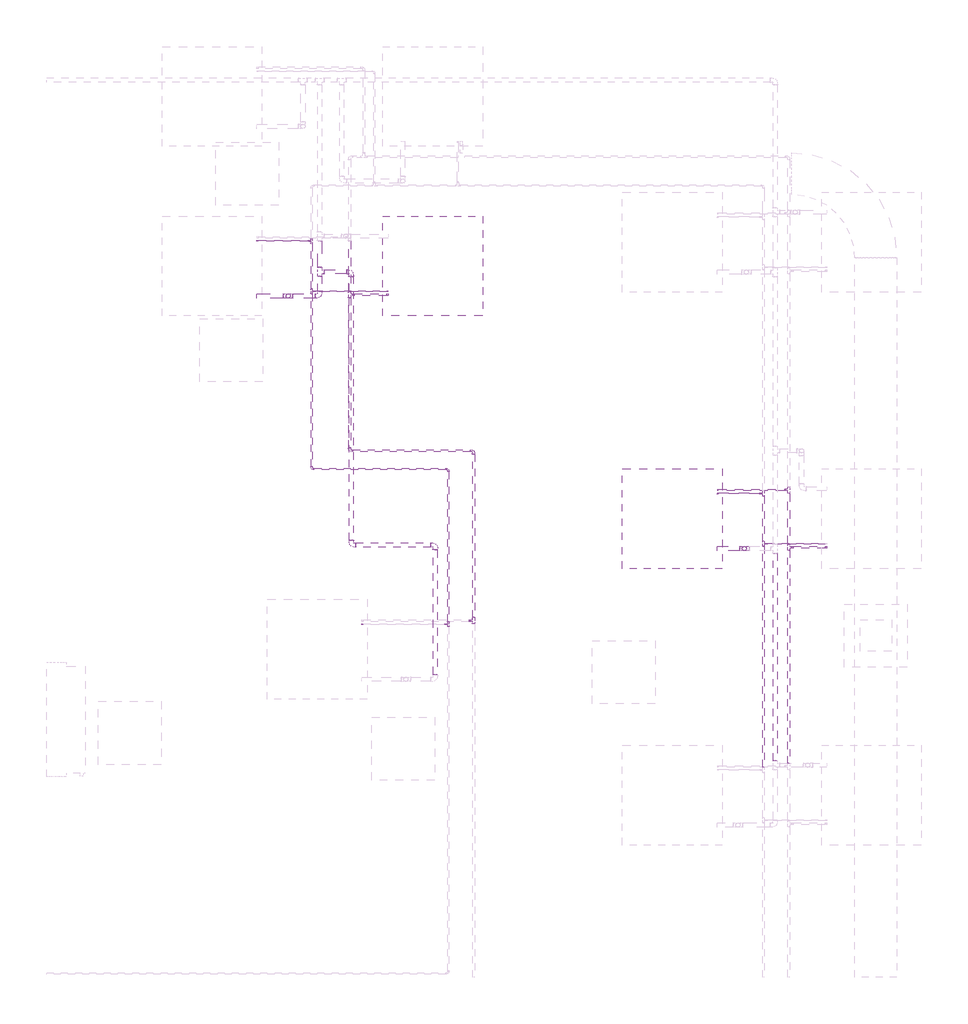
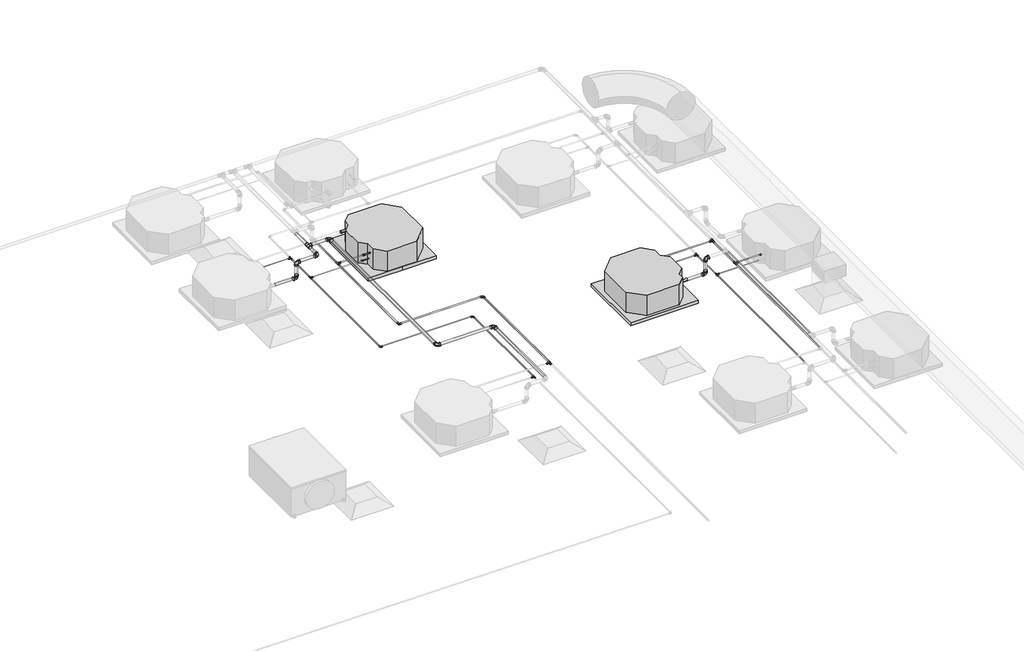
# One storey, part 20 of 22: 38 pipe fittings, 31 pipe segments, 2 proxies.
"""IFC4 building model written with IfcOpenShell, lengths in millimetres."""

from ifc_helpers import new_model, si_unit, point, frame, frame_2d, origin, place, context, project, spatial, circle_curve, trimmed, segment, composite_curve, outline, extrude, transform, mapped, element, save
from components import mechanical_equipment_53173f38, pipe_fitting_144f4440, pipe_fitting_14eb6376, pipe_fitting_103655aa, pipe_fitting_9aea3abe, pipe_fitting_0e110a5f, pipe_fitting_afe73776, pipe_fitting_09966660, pipe_fitting_501e5992, pipe_fitting_58ab9b66, pipe_fitting_da16c1b3, pipe_fitting_5a6d96d3, pipe_fitting_3e80353c

model = new_model("IFC4")

# Units and contexts
model_context = context("Model", 3, world=origin())
ifc_project = project(units=[si_unit("LENGTHUNIT", "METRE", prefix="MILLI")], contexts=[model_context])

# Site, building, storey
site = spatial("IfcSite", under=ifc_project)
building = spatial("IfcBuilding", under=site)
storey = spatial("IfcBuildingStorey", under=building, Name="Nível 2", Elevation=3880.0)

# Proxies
placement = place(None, origin())
mechanical_equipment_shape = mechanical_equipment_53173f38(model_context)
element("IfcBuildingElementProxy", 1, Name="Midea_VRF_Indoor_4-way Cassette_MI-90(100,112,140)Q4_DHN1-D (2nd DC) : MI2-140Q4DHN1", ObjectType="Midea_VRF_Indoor_4-way Cassette_MI-90(100,112,140)Q4_DHN1-D (2nd DC) : MI2-140Q4DHN1", at=placement, inside=storey, context=model_context, shape_type="MappedRepresentation", body=[
    mapped(mechanical_equipment_shape, transform((28178.6922103, 5335.03247, 6880.0), x_axis=(1.0, 0.0, 0.0), y_axis=(0.0, 1.0, 0.0), z_axis=(0.0, 0.0, 1.0))),
])
element("IfcBuildingElementProxy", 2, Name="Midea_VRF_Indoor_4-way Cassette_MI-90(100,112,140)Q4_DHN1-D (2nd DC) : MI2-140Q4DHN1", ObjectType="Midea_VRF_Indoor_4-way Cassette_MI-90(100,112,140)Q4_DHN1-D (2nd DC) : MI2-140Q4DHN1", at=placement, inside=storey, context=model_context, shape_type="MappedRepresentation", body=[
    mapped(mechanical_equipment_shape, transform((25897.5040419, 7738.4946683, 6880.0), x_axis=(-1.0, 0.0, 0.0), y_axis=(0.0, -1.0, 0.0), z_axis=(0.0, 0.0, 1.0))),
])

# Pipe fittings
pipe_fitting_shape = pipe_fitting_144f4440(model_context)
element("IfcPipeFitting", 3, ObjectType="Cotovelo - PVC - CW : Padrão", at=placement, inside=storey, context=model_context, shape_type="MappedRepresentation", body=[
    mapped(pipe_fitting_shape, transform((28863.6922102, 5050.03247, 7360.6313654), x_axis=(0.0, 0.0, 1.0), y_axis=(1.0, 0.0, 0.0), z_axis=(0.0, 1.0, 0.0))),
])
element("IfcPipeFitting", 4, ObjectType="Cotovelo - PVC - CW : Padrão", at=placement, inside=storey, context=model_context, shape_type="MappedRepresentation", body=[
    mapped(pipe_fitting_shape, transform((24522.5040418, 7453.4946683, 7360.6313654), x_axis=(0.0, 0.0, 1.0), y_axis=(1.0, 0.0, 0.0), z_axis=(0.0, 1.0, 0.0))),
])
element("IfcPipeFitting", 5, ObjectType="Cotovelo - PVC - CW : Padrão", at=placement, inside=storey, context=model_context, shape_type="MappedRepresentation", body=[
    mapped(pipe_fitting_shape, transform((24822.5040418, 7453.4946683, 7360.6313654), x_axis=(1.0, 0.0, 0.0), y_axis=(0.0, 1.0, 0.0), z_axis=(0.0, 0.0, 1.0))),
])
element("IfcPipeFitting", 6, ObjectType="Cotovelo - PVC - CW : Padrão", at=placement, inside=storey, context=model_context, shape_type="MappedRepresentation", body=[
    mapped(pipe_fitting_shape, transform((25122.5040418, 7683.6725833, 7360.6313654), x_axis=(0.0, 1.0, 0.0), y_axis=(-1.0, 0.0, 0.0), z_axis=(0.0, 0.0, 1.0))),
])
element("IfcPipeFitting", 7, ObjectType="Cotovelo - PVC - CW : Padrão", at=placement, inside=storey, context=model_context, shape_type="MappedRepresentation", body=[
    mapped(pipe_fitting_shape, transform((25122.5040418, 5083.6725833, 7360.6313654), x_axis=(0.0, -1.0, 0.0), y_axis=(1.0, 0.0, 0.0), z_axis=(0.0, 0.0, 1.0))),
])
element("IfcPipeFitting", 8, ObjectType="Cotovelo - PVC - CW : Padrão", at=placement, inside=storey, context=model_context, shape_type="MappedRepresentation", body=[
    mapped(pipe_fitting_shape, transform((25922.5040418, 5083.6725833, 7360.6313654), x_axis=(0.0, 1.0, 0.0), y_axis=(-1.0, 0.0, 0.0), z_axis=(0.0, 0.0, 1.0))),
])
pipe_fitting_2_shape = pipe_fitting_14eb6376(model_context)
element("IfcPipeFitting", 9, ObjectType="Tê de redução - PVC - CW : Padrão", at=placement, inside=storey, context=model_context, shape_type="MappedRepresentation", body=[
    mapped(pipe_fitting_2_shape, transform((24822.5040418, 7683.6725833, 7360.6313654), x_axis=(0.0, 1.0, 0.0), y_axis=(-1.0, 0.0, 0.0), z_axis=(0.0, 0.0, 1.0))),
])
pipe_fitting_3_shape = pipe_fitting_103655aa(model_context)
element("IfcPipeFitting", 10, ObjectType="Cotovelo - PVC - CW : Padrão", at=placement, inside=storey, context=model_context, shape_type="MappedRepresentation", body=[
    mapped(pipe_fitting_3_shape, transform((24522.5040418, 7453.4946683, 7132.3), x_axis=(0.9999999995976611, 0.0, -2.83668442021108e-05), y_axis=(2.83668442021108e-05, 0.0, 0.9999999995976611), z_axis=(0.0, -1.0, 0.0))),
])
pipe_fitting_4_shape = pipe_fitting_9aea3abe(model_context)
element("IfcPipeFitting", 11, ObjectType="Cotovelo - PVC - CW : Padrão", at=placement, inside=storey, context=model_context, shape_type="MappedRepresentation", body=[
    mapped(pipe_fitting_4_shape, transform((28863.6922102, 5050.03247, 7132.3), x_axis=(0.9999999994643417, 0.0, -3.2730974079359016e-05), y_axis=(3.2730974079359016e-05, 0.0, 0.9999999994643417), z_axis=(0.0, -1.0, 0.0))),
])
pipe_fitting_5_shape = pipe_fitting_0e110a5f(model_context)
element("IfcPipeFitting", 12, ObjectType="Cotovelo - Soldado - CU : Padrão", at=placement, inside=storey, context=model_context, shape_type="MappedRepresentation", body=[
    mapped(pipe_fitting_5_shape, transform((25106.1108591, 5979.9222462, 7132.3), x_axis=(0.0, -1.0, 0.0), y_axis=(1.0, 0.0, 0.0), z_axis=(0.0, 0.0, 1.0))),
])
element("IfcPipeFitting", 13, ObjectType="Cotovelo - Soldado - CU : Padrão", at=placement, inside=storey, context=model_context, shape_type="MappedRepresentation", body=[
    mapped(pipe_fitting_5_shape, transform((26286.1108591, 5979.9222462, 7132.3), x_axis=(0.0, 1.0, 0.0), y_axis=(-1.0, 0.0, 0.0), z_axis=(0.0, 0.0, 1.0))),
])
pipe_fitting_6_shape = pipe_fitting_afe73776(model_context)
element("IfcPipeFitting", 14, ObjectType="Bucha de redução reta - Soldada - CU : Padrão", at=placement, inside=storey, context=model_context, shape_type="MappedRepresentation", body=[
    mapped(pipe_fitting_6_shape, transform((26255.9503592, 4363.6538733, 7132.300242), x_axis=(-0.9999999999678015, 0.0, 8.024771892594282e-06), y_axis=(0.0, -1.0, 0.0), z_axis=(8.024771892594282e-06, 0.0, 0.9999999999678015))),
])
element("IfcPipeFitting", 15, ObjectType="Bucha de redução reta - Soldada - CU : Padrão", at=placement, inside=storey, context=model_context, shape_type="MappedRepresentation", body=[
    mapped(pipe_fitting_6_shape, transform((25136.2713591, 7465.2838546, 7132.3005418), x_axis=(0.9999999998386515, 0.0, 1.796376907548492e-05), y_axis=(0.0, 1.0, 0.0), z_axis=(-1.796376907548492e-05, 0.0, 0.9999999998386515))),
])
element("IfcPipeFitting", 16, ObjectType="Bucha de redução reta - Soldada - CU : Padrão", at=placement, inside=storey, context=model_context, shape_type="MappedRepresentation", body=[
    mapped(pipe_fitting_6_shape, transform((29316.2713591, 5061.8216563, 7132.3007154), x_axis=(0.9999999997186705, 0.0, 2.3720434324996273e-05), y_axis=(0.0, 1.0, 0.0), z_axis=(-2.3720434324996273e-05, 0.0, 0.9999999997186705))),
])
element("IfcPipeFitting", 17, ObjectType="Bucha de redução reta - Soldada - CU : Padrão", at=placement, inside=storey, context=model_context, shape_type="MappedRepresentation", body=[
    mapped(pipe_fitting_6_shape, transform((29255.9503592, 5608.2432836, 7132.3003778), x_axis=(-0.9999999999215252, 0.0, 1.2527961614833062e-05), y_axis=(0.0, -1.0000000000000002, 0.0), z_axis=(1.2527961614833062e-05, 0.0, 0.9999999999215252))),
])
pipe_fitting_7_shape = pipe_fitting_09966660(model_context)
element("IfcPipeFitting", 18, ObjectType="Tê - Soldado - CU : Padrão", at=placement, inside=storey, context=model_context, shape_type="MappedRepresentation", body=[
    mapped(pipe_fitting_7_shape, transform((26286.1108591, 4363.6538733, 7132.3), x_axis=(0.0, 1.0, 0.0), y_axis=(0.9999999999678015, 0.0, -8.024771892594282e-06), z_axis=(-8.024771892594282e-06, 0.0, -0.9999999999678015))),
])
element("IfcPipeFitting", 19, ObjectType="Tê - Soldado - CU : Padrão", at=placement, inside=storey, context=model_context, shape_type="MappedRepresentation", body=[
    mapped(pipe_fitting_7_shape, transform((25106.1108591, 7465.2838546, 7132.3), x_axis=(0.0, 1.0, 0.0), y_axis=(-0.9999999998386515, 0.0, -1.796376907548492e-05), z_axis=(-1.796376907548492e-05, 0.0, 0.9999999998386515))),
])
element("IfcPipeFitting", 20, ObjectType="Tê - Soldado - CU : Padrão", at=placement, inside=storey, context=model_context, shape_type="MappedRepresentation", body=[
    mapped(pipe_fitting_7_shape, transform((29286.1108591, 5061.8216563, 7132.3), x_axis=(0.0, -1.0, 0.0), y_axis=(-0.9999999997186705, 0.0, -2.3720434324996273e-05), z_axis=(2.3720434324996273e-05, 0.0, -0.9999999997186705))),
])
element("IfcPipeFitting", 21, ObjectType="Tê - Soldado - CU : Padrão", at=placement, inside=storey, context=model_context, shape_type="MappedRepresentation", body=[
    mapped(pipe_fitting_7_shape, transform((29286.1108591, 5608.2432836, 7132.3), x_axis=(0.0, -1.0, 0.0), y_axis=(0.9999999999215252, 0.0, -1.2527961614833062e-05), z_axis=(1.2527961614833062e-05, 0.0, 0.9999999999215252))),
])
pipe_fitting_8_shape = pipe_fitting_501e5992(model_context)
element("IfcPipeFitting", 22, ObjectType="Bucha de redução reta - Soldada - CU : Padrão", at=placement, inside=storey, context=model_context, shape_type="MappedRepresentation", body=[
    mapped(pipe_fitting_8_shape, transform((25459.8451419, 7465.2838546, 7132.3082827), x_axis=(0.9999999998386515, 0.0, 1.7963769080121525e-05), y_axis=(0.0, 1.0, 0.0), z_axis=(-1.7963769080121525e-05, 0.0, 0.9999999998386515))),
])
element("IfcPipeFitting", 23, ObjectType="Bucha de redução reta - Soldada - CU : Padrão", at=placement, inside=storey, context=model_context, shape_type="MappedRepresentation", body=[
    mapped(pipe_fitting_8_shape, transform((29635.3505066, 5061.8216563, 7132.3082004), x_axis=(0.9999999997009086, 0.0, 2.445777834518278e-05), y_axis=(0.0, 1.0, 0.0), z_axis=(-2.445777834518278e-05, 0.0, 0.9999999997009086))),
])
element("IfcPipeFitting", 24, ObjectType="Bucha de redução reta - Soldada - CU : Padrão", at=placement, inside=storey, context=model_context, shape_type="MappedRepresentation", body=[
    mapped(pipe_fitting_8_shape, transform((28616.3511103, 5608.2432836, 7132.3083491), x_axis=(-0.9999999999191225, 0.0, 1.2718296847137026e-05), y_axis=(0.0, -1.0, 0.0), z_axis=(1.2718296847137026e-05, 0.0, 0.9999999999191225))),
])
pipe_fitting_9_shape = pipe_fitting_58ab9b66(model_context)
element("IfcPipeFitting", 25, ObjectType="Bucha de redução reta - Soldada - CU : Padrão", at=placement, inside=storey, context=model_context, shape_type="MappedRepresentation", body=[
    mapped(pipe_fitting_9_shape, transform((28613.3666103, 5574.4408418, 7026.8446487), x_axis=(-1.0, 0.0, 0.0), y_axis=(0.0, -1.0, 0.0), z_axis=(0.0, 0.0, 1.0))),
])
element("IfcPipeFitting", 26, ObjectType="Bucha de redução reta - Soldada - CU : Padrão", at=placement, inside=storey, context=model_context, shape_type="MappedRepresentation", body=[
    mapped(pipe_fitting_9_shape, transform((24232.1784419, 7977.9030401, 7026.8446487), x_axis=(-1.0, 0.0, 0.0), y_axis=(0.0, -1.0, 0.0), z_axis=(0.0, 0.0, 1.0))),
])
element("IfcPipeFitting", 27, ObjectType="Bucha de redução reta - Soldada - CU : Padrão", at=placement, inside=storey, context=model_context, shape_type="MappedRepresentation", body=[
    mapped(pipe_fitting_9_shape, transform((25462.8296419, 7499.0862964, 7026.8446487), x_axis=(1.0, 0.0, 0.0), y_axis=(0.0, 1.0, 0.0), z_axis=(0.0, 0.0, 1.0))),
])
element("IfcPipeFitting", 28, ObjectType="Bucha de redução reta - Soldada - CU : Padrão", at=placement, inside=storey, context=model_context, shape_type="MappedRepresentation", body=[
    mapped(pipe_fitting_9_shape, transform((25232.1784419, 4329.8514315, 7026.8446487), x_axis=(-1.0, 0.0, 0.0), y_axis=(0.0, -1.0, 0.0), z_axis=(0.0, 0.0, 1.0))),
])
pipe_fitting_10_shape = pipe_fitting_da16c1b3(model_context)
element("IfcPipeFitting", 29, ObjectType="Tê - Soldado - CU : Padrão", at=placement, inside=storey, context=model_context, shape_type="MappedRepresentation", body=[
    mapped(pipe_fitting_10_shape, transform((29046.1108592, 5574.4408418, 7026.8446487), x_axis=(0.0, -1.0, 0.0), y_axis=(1.0, 0.0, 0.0), z_axis=(0.0, 0.0, 1.0))),
])
element("IfcPipeFitting", 30, ObjectType="Tê - Soldado - CU : Padrão", at=placement, inside=storey, context=model_context, shape_type="MappedRepresentation", body=[
    mapped(pipe_fitting_10_shape, transform((29046.1108592, 5095.6240981, 7026.8446487), x_axis=(0.0, -1.0, 0.0), y_axis=(-1.0, 0.0, 0.0), z_axis=(0.0, 0.0, -1.0))),
])
element("IfcPipeFitting", 31, ObjectType="Tê - Soldado - CU : Padrão", at=placement, inside=storey, context=model_context, shape_type="MappedRepresentation", body=[
    mapped(pipe_fitting_10_shape, transform((24746.1108592, 7977.9030401, 7026.8446487), x_axis=(0.0, 1.0, 0.0), y_axis=(1.0, 0.0, 0.0), z_axis=(0.0, 0.0, -1.0))),
])
element("IfcPipeFitting", 32, ObjectType="Tê - Soldado - CU : Padrão", at=placement, inside=storey, context=model_context, shape_type="MappedRepresentation", body=[
    mapped(pipe_fitting_10_shape, transform((24746.1108592, 7499.0862964, 7026.8446487), x_axis=(0.0, 1.0, 0.0), y_axis=(-1.0, 0.0, 0.0), z_axis=(0.0, 0.0, 1.0))),
])
element("IfcPipeFitting", 33, ObjectType="Tê - Soldado - CU : Padrão", at=placement, inside=storey, context=model_context, shape_type="MappedRepresentation", body=[
    mapped(pipe_fitting_10_shape, transform((26046.1108592, 4329.8514315, 7026.8446487), x_axis=(0.0, 1.0, 0.0), y_axis=(1.0, 0.0, 0.0), z_axis=(0.0, 0.0, -1.0))),
])
pipe_fitting_11_shape = pipe_fitting_5a6d96d3(model_context)
element("IfcPipeFitting", 34, ObjectType="Bucha de redução reta - Soldada - CU : Padrão", at=placement, inside=storey, context=model_context, shape_type="MappedRepresentation", body=[
    mapped(pipe_fitting_11_shape, transform((29021.0938592, 5574.4408418, 7026.8446487), x_axis=(-1.0, 0.0, 0.0), y_axis=(0.0, -1.0, 0.0), z_axis=(0.0, 0.0, 1.0))),
])
element("IfcPipeFitting", 35, ObjectType="Bucha de redução reta - Soldada - CU : Padrão", at=placement, inside=storey, context=model_context, shape_type="MappedRepresentation", body=[
    mapped(pipe_fitting_11_shape, transform((29071.1278592, 5095.6240981, 7026.8446487), x_axis=(1.0, 0.0, 0.0), y_axis=(0.0, 1.0, 0.0), z_axis=(0.0, 0.0, 1.0))),
])
element("IfcPipeFitting", 36, ObjectType="Bucha de redução reta - Soldada - CU : Padrão", at=placement, inside=storey, context=model_context, shape_type="MappedRepresentation", body=[
    mapped(pipe_fitting_11_shape, transform((24721.0938592, 7977.9030401, 7026.8446487), x_axis=(-1.0, 0.0, 0.0), y_axis=(0.0, -1.0, 0.0), z_axis=(0.0, 0.0, 1.0))),
])
element("IfcPipeFitting", 37, ObjectType="Bucha de redução reta - Soldada - CU : Padrão", at=placement, inside=storey, context=model_context, shape_type="MappedRepresentation", body=[
    mapped(pipe_fitting_11_shape, transform((24771.1278592, 7499.0862964, 7026.8446487), x_axis=(1.0, 0.0, 0.0), y_axis=(0.0, 1.0, 0.0), z_axis=(0.0, 0.0, 1.0))),
])
element("IfcPipeFitting", 38, ObjectType="Bucha de redução reta - Soldada - CU : Padrão", at=placement, inside=storey, context=model_context, shape_type="MappedRepresentation", body=[
    mapped(pipe_fitting_11_shape, transform((26021.0938592, 4329.8514315, 7026.8446487), x_axis=(-1.0, 0.0, 0.0), y_axis=(0.0, -1.0, 0.0), z_axis=(0.0, 0.0, 1.0))),
])
pipe_fitting_12_shape = pipe_fitting_3e80353c(model_context)
element("IfcPipeFitting", 39, ObjectType="Cotovelo - Soldado - CU : Padrão", at=placement, inside=storey, context=model_context, shape_type="MappedRepresentation", body=[
    mapped(pipe_fitting_12_shape, transform((24746.1108592, 5806.1198044, 7026.8446487), x_axis=(0.0, -1.0, 0.0), y_axis=(1.0, 0.0, 0.0), z_axis=(0.0, 0.0, 1.0))),
])
element("IfcPipeFitting", 40, ObjectType="Cotovelo - Soldado - CU : Padrão", at=placement, inside=storey, context=model_context, shape_type="MappedRepresentation", body=[
    mapped(pipe_fitting_12_shape, transform((26046.1108592, 5806.1198044, 7026.8446487), x_axis=(0.0, 1.0, 0.0), y_axis=(-1.0, 0.0, 0.0), z_axis=(0.0, 0.0, 1.0))),
])

# Pipe segments
element("IfcPipeSegment", 41, ObjectType="Tubos de cobre HVAC", at=placement, inside=storey, context=model_context, shape_type="SweptSolid", body=[
    extrude(outline(composite_curve([segment(trimmed(circle_curve(frame_2d((7132.3, 25106.1108591)), 9.525), [point((7132.3, 25096.5858591))], [point((7122.775, 25106.1108591))], False, "CARTESIAN"), True, "CONTINUOUS"), segment(trimmed(circle_curve(frame_2d((7132.3, 25106.1108591)), 9.525), [point((7122.775, 25106.1108591))], [point((7132.3, 25115.6358591))], False, "CARTESIAN"), True, "CONTINUOUS"), segment(trimmed(circle_curve(frame_2d((7132.3, 25106.1108591)), 9.525), [point((7132.3, 25115.6358591))], [point((7141.825, 25106.1108591))], False, "CARTESIAN"), True, "CONTINUOUS"), segment(trimmed(circle_curve(frame_2d((7132.3, 25106.1108591)), 9.525), [point((7141.825, 25106.1108591))], [point((7132.3, 25096.5858591))], False, "CARTESIAN"), True, "CONTINUOUS")], self_intersect=False)), frame((0.0, 6011.3812462, 0.0), z_axis=(0.0, 1.0, 0.0), x_axis=(0.0, 0.0, 1.0)), (0.0, 0.0, 1.0), 1423.7073584),
])
element("IfcPipeSegment", 42, ObjectType="Tubos de cobre HVAC", at=placement, inside=storey, context=model_context, shape_type="SweptSolid", body=[
    extrude(outline(composite_curve([segment(trimmed(circle_curve(frame_2d((5979.9222462, 7132.3)), 9.525), [point((5970.3972462, 7132.3))], [point((5979.9222462, 7141.825))], False, "CARTESIAN"), True, "CONTINUOUS"), segment(trimmed(circle_curve(frame_2d((5979.9222462, 7132.3)), 9.525), [point((5979.9222462, 7141.825))], [point((5989.4472462, 7132.3))], False, "CARTESIAN"), True, "CONTINUOUS"), segment(trimmed(circle_curve(frame_2d((5979.9222462, 7132.3)), 9.525), [point((5989.4472462, 7132.3))], [point((5979.9222462, 7122.775))], False, "CARTESIAN"), True, "CONTINUOUS"), segment(trimmed(circle_curve(frame_2d((5979.9222462, 7132.3)), 9.525), [point((5979.9222462, 7122.775))], [point((5970.3972462, 7132.3))], False, "CARTESIAN"), True, "CONTINUOUS")], self_intersect=False)), frame((25137.5698591, 0.0, 0.0), z_axis=(1.0, 0.0, 0.0), x_axis=(0.0, 1.0, 0.0)), (0.0, 0.0, 1.0), 1117.082),
])
element("IfcPipeSegment", 43, ObjectType="Tubos de cobre HVAC", at=placement, inside=storey, context=model_context, shape_type="SweptSolid", body=[
    extrude(outline(composite_curve([segment(trimmed(circle_curve(frame_2d((7132.3, 26286.1108591)), 9.525), [point((7132.3, 26276.5858591))], [point((7122.775, 26286.1108591))], False, "CARTESIAN"), True, "CONTINUOUS"), segment(trimmed(circle_curve(frame_2d((7132.3, 26286.1108591)), 9.525), [point((7122.775, 26286.1108591))], [point((7132.3, 26295.6358591))], False, "CARTESIAN"), True, "CONTINUOUS"), segment(trimmed(circle_curve(frame_2d((7132.3, 26286.1108591)), 9.525), [point((7132.3, 26295.6358591))], [point((7141.825, 26286.1108591))], False, "CARTESIAN"), True, "CONTINUOUS"), segment(trimmed(circle_curve(frame_2d((7132.3, 26286.1108591)), 9.525), [point((7141.825, 26286.1108591))], [point((7132.3, 26276.5858591))], False, "CARTESIAN"), True, "CONTINUOUS")], self_intersect=False)), frame((0.0, 4393.8491233, 0.0), z_axis=(0.0, 1.0, 0.0), x_axis=(0.0, 0.0, 1.0)), (0.0, 0.0, 1.0), 1554.6141229),
])
element("IfcPipeSegment", 44, ObjectType="Tubos de cobre HVAC", at=placement, inside=storey, context=model_context, shape_type="SweptSolid", body=[
    extrude(outline(composite_curve([segment(trimmed(circle_curve(frame_2d((0.0, 7.935)), 7.935), [point((-7.935, 7.935))], [point((0.0, 15.87))], False, "CARTESIAN"), True, "CONTINUOUS"), segment(trimmed(circle_curve(frame_2d((0.0, 7.935)), 7.935), [point((0.0, 15.87))], [point((7.935, 7.935))], False, "CARTESIAN"), True, "CONTINUOUS"), segment(trimmed(circle_curve(frame_2d((0.0, 7.935)), 7.935), [point((7.935, 7.935))], [point((0.0, 0.0))], False, "CARTESIAN"), True, "CONTINUOUS"), segment(trimmed(circle_curve(frame_2d((0.0, 7.935)), 7.935), [point((0.0, 0.0))], [point((-7.935, 7.935))], False, "CARTESIAN"), True, "CONTINUOUS")], self_intersect=False)), frame((25148.9304567, 7465.2838546, 7124.3657692), z_axis=(0.9999999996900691, 0.0, 2.4897024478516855e-05), x_axis=(0.0, 1.0, 0.0)), (0.0, 0.0, 1.0), 310.9148828),
])
element("IfcPipeSegment", 45, ObjectType="Tubos de cobre HVAC", at=placement, inside=storey, context=model_context, shape_type="SweptSolid", body=[
    extrude(outline(composite_curve([segment(trimmed(circle_curve(frame_2d((7132.3, 25106.1108591)), 9.525), [point((7132.3, 25096.5858591))], [point((7122.775, 25106.1108591))], False, "CARTESIAN"), True, "CONTINUOUS"), segment(trimmed(circle_curve(frame_2d((7132.3, 25106.1108591)), 9.525), [point((7122.775, 25106.1108591))], [point((7132.3, 25115.6358591))], False, "CARTESIAN"), True, "CONTINUOUS"), segment(trimmed(circle_curve(frame_2d((7132.3, 25106.1108591)), 9.525), [point((7132.3, 25115.6358591))], [point((7141.825, 25106.1108591))], False, "CARTESIAN"), True, "CONTINUOUS"), segment(trimmed(circle_curve(frame_2d((7132.3, 25106.1108591)), 9.525), [point((7141.825, 25106.1108591))], [point((7132.3, 25096.5858591))], False, "CARTESIAN"), True, "CONTINUOUS")], self_intersect=False)), frame((0.0, 7495.4791046, 0.0), z_axis=(0.0, 1.0, 0.0), x_axis=(0.0, 0.0, 1.0)), (0.0, 0.0, 1.0), 486.0311273),
])
element("IfcPipeSegment", 46, ObjectType="Tubos de cobre HVAC", at=placement, inside=storey, context=model_context, shape_type="SweptSolid", body=[
    extrude(outline(composite_curve([segment(trimmed(circle_curve(frame_2d((0.0, 7.935)), 7.935), [point((-7.935, 7.935))], [point((0.0, 15.87))], False, "CARTESIAN"), True, "CONTINUOUS"), segment(trimmed(circle_curve(frame_2d((0.0, 7.935)), 7.935), [point((0.0, 15.87))], [point((7.935, 7.935))], False, "CARTESIAN"), True, "CONTINUOUS"), segment(trimmed(circle_curve(frame_2d((0.0, 7.935)), 7.935), [point((7.935, 7.935))], [point((0.0, 0.0))], False, "CARTESIAN"), True, "CONTINUOUS"), segment(trimmed(circle_curve(frame_2d((0.0, 7.935)), 7.935), [point((0.0, 0.0))], [point((-7.935, 7.935))], False, "CARTESIAN"), True, "CONTINUOUS")], self_intersect=False)), frame((29328.9304452, 5061.8216563, 7124.3660157), z_axis=(0.9999999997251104, 0.0, 2.3447373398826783e-05), x_axis=(0.0, 1.0, 0.0)), (0.0, 0.0, 1.0), 306.4202475),
])
element("IfcPipeSegment", 47, ObjectType="Tubos de cobre HVAC", at=placement, inside=storey, context=model_context, shape_type="SweptSolid", body=[
    extrude(outline(composite_curve([segment(trimmed(circle_curve(frame_2d((7132.3, 29286.1108591)), 9.525), [point((7132.3, 29295.6358591))], [point((7141.825, 29286.1108591))], False, "CARTESIAN"), True, "CONTINUOUS"), segment(trimmed(circle_curve(frame_2d((7132.3, 29286.1108591)), 9.525), [point((7141.825, 29286.1108591))], [point((7132.3, 29276.5858591))], False, "CARTESIAN"), True, "CONTINUOUS"), segment(trimmed(circle_curve(frame_2d((7132.3, 29286.1108591)), 9.525), [point((7132.3, 29276.5858591))], [point((7122.775, 29286.1108591))], False, "CARTESIAN"), True, "CONTINUOUS"), segment(trimmed(circle_curve(frame_2d((7132.3, 29286.1108591)), 9.525), [point((7122.775, 29286.1108591))], [point((7132.3, 29295.6358591))], False, "CARTESIAN"), True, "CONTINUOUS")], self_intersect=False)), frame((0.0, 3006.9453756, 0.0), z_axis=(0.0, 1.0, 0.0), x_axis=(0.0, 0.0, 1.0)), (0.0, 0.0, 1.0), 2024.6810307),
])
element("IfcPipeSegment", 48, ObjectType="Tubos de cobre HVAC", at=placement, inside=storey, context=model_context, shape_type="SweptSolid", body=[
    extrude(outline(composite_curve([segment(trimmed(circle_curve(frame_2d((0.0, 7.935)), 7.935), [point((-7.935, 7.935))], [point((0.0, 15.87))], False, "CARTESIAN"), True, "CONTINUOUS"), segment(trimmed(circle_curve(frame_2d((0.0, 7.935)), 7.935), [point((0.0, 15.87))], [point((7.935, 7.935))], False, "CARTESIAN"), True, "CONTINUOUS"), segment(trimmed(circle_curve(frame_2d((0.0, 7.935)), 7.935), [point((7.935, 7.935))], [point((0.0, 0.0))], False, "CARTESIAN"), True, "CONTINUOUS"), segment(trimmed(circle_curve(frame_2d((0.0, 7.935)), 7.935), [point((0.0, 0.0))], [point((-7.935, 7.935))], False, "CARTESIAN"), True, "CONTINUOUS")], self_intersect=False)), frame((29243.2913582, 5608.2432836, 7124.3655364), z_axis=(-0.9999999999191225, 0.0, 1.2718296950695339e-05), x_axis=(0.0, -1.0, 0.0)), (0.0, 0.0, 1.0), 626.9403489),
])
element("IfcPipeSegment", 49, ObjectType="Tubos de cobre HVAC", at=placement, inside=storey, context=model_context, shape_type="SweptSolid", body=[
    extrude(outline(composite_curve([segment(trimmed(circle_curve(frame_2d((7132.3, 29286.1108591)), 9.525), [point((7132.3, 29295.6358591))], [point((7141.825, 29286.1108591))], False, "CARTESIAN"), True, "CONTINUOUS"), segment(trimmed(circle_curve(frame_2d((7132.3, 29286.1108591)), 9.525), [point((7141.825, 29286.1108591))], [point((7132.3, 29276.5858591))], False, "CARTESIAN"), True, "CONTINUOUS"), segment(trimmed(circle_curve(frame_2d((7132.3, 29286.1108591)), 9.525), [point((7132.3, 29276.5858591))], [point((7122.775, 29286.1108591))], False, "CARTESIAN"), True, "CONTINUOUS"), segment(trimmed(circle_curve(frame_2d((7132.3, 29286.1108591)), 9.525), [point((7122.775, 29286.1108591))], [point((7132.3, 29295.6358591))], False, "CARTESIAN"), True, "CONTINUOUS")], self_intersect=False)), frame((0.0, 5092.0169063, 0.0), z_axis=(0.0, 1.0, 0.0), x_axis=(0.0, 0.0, 1.0)), (0.0, 0.0, 1.0), 486.0311273),
])
element("IfcPipeSegment", 50, ObjectType="Tubos de cobre HVAC", at=placement, inside=storey, context=model_context, shape_type="SweptSolid", body=[
    extrude(outline(composite_curve([segment(trimmed(circle_curve(frame_2d((7026.8446487, 24746.1108592)), 6.35), [point((7026.8446487, 24739.7608592))], [point((7020.4946487, 24746.1108592))], False, "CARTESIAN"), True, "CONTINUOUS"), segment(trimmed(circle_curve(frame_2d((7026.8446487, 24746.1108592)), 6.35), [point((7020.4946487, 24746.1108592))], [point((7026.8446487, 24752.4608592))], False, "CARTESIAN"), True, "CONTINUOUS"), segment(trimmed(circle_curve(frame_2d((7026.8446487, 24746.1108592)), 6.35), [point((7026.8446487, 24752.4608592))], [point((7033.1946487, 24746.1108592))], False, "CARTESIAN"), True, "CONTINUOUS"), segment(trimmed(circle_curve(frame_2d((7026.8446487, 24746.1108592)), 6.35), [point((7033.1946487, 24746.1108592))], [point((7026.8446487, 24739.7608592))], False, "CARTESIAN"), True, "CONTINUOUS")], self_intersect=False)), frame((0.0, 5832.6258044, 0.0), z_axis=(0.0, 1.0, 0.0), x_axis=(0.0, 0.0, 1.0)), (0.0, 0.0, 1.0), 1641.3769921),
])
element("IfcPipeSegment", 51, ObjectType="Tubos de cobre HVAC", at=placement, inside=storey, context=model_context, shape_type="SweptSolid", body=[
    extrude(outline(composite_curve([segment(trimmed(circle_curve(frame_2d((5806.1198044, 7026.8446487)), 6.35), [point((5799.7698044, 7026.8446487))], [point((5806.1198044, 7033.1946487))], False, "CARTESIAN"), True, "CONTINUOUS"), segment(trimmed(circle_curve(frame_2d((5806.1198044, 7026.8446487)), 6.35), [point((5806.1198044, 7033.1946487))], [point((5812.4698044, 7026.8446487))], False, "CARTESIAN"), True, "CONTINUOUS"), segment(trimmed(circle_curve(frame_2d((5806.1198044, 7026.8446487)), 6.35), [point((5812.4698044, 7026.8446487))], [point((5806.1198044, 7020.4946487))], False, "CARTESIAN"), True, "CONTINUOUS"), segment(trimmed(circle_curve(frame_2d((5806.1198044, 7026.8446487)), 6.35), [point((5806.1198044, 7020.4946487))], [point((5799.7698044, 7026.8446487))], False, "CARTESIAN"), True, "CONTINUOUS")], self_intersect=False)), frame((24772.6168592, 0.0, 0.0), z_axis=(1.0, 0.0, 0.0), x_axis=(0.0, 1.0, 0.0)), (0.0, 0.0, 1.0), 1246.988),
])
element("IfcPipeSegment", 52, ObjectType="Tubos de cobre HVAC", at=placement, inside=storey, context=model_context, shape_type="SweptSolid", body=[
    extrude(outline(composite_curve([segment(trimmed(circle_curve(frame_2d((5574.4408418, 7026.8446487)), 4.76), [point((5579.2008418, 7026.8446487))], [point((5574.4408418, 7022.0846487))], False, "CARTESIAN"), True, "CONTINUOUS"), segment(trimmed(circle_curve(frame_2d((5574.4408418, 7026.8446487)), 4.76), [point((5574.4408418, 7022.0846487))], [point((5569.6808418, 7026.8446487))], False, "CARTESIAN"), True, "CONTINUOUS"), segment(trimmed(circle_curve(frame_2d((5574.4408418, 7026.8446487)), 4.76), [point((5569.6808418, 7026.8446487))], [point((5574.4408418, 7031.6046487))], False, "CARTESIAN"), True, "CONTINUOUS"), segment(trimmed(circle_curve(frame_2d((5574.4408418, 7026.8446487)), 4.76), [point((5574.4408418, 7031.6046487))], [point((5579.2008418, 7026.8446487))], False, "CARTESIAN"), True, "CONTINUOUS")], self_intersect=False)), frame((28613.3666103, 0.0, 0.0), z_axis=(1.0, 0.0, 0.0), x_axis=(0.0, 1.0, 0.0)), (0.0, 0.0, 1.0), 398.0528488),
])
element("IfcPipeSegment", 53, ObjectType="Tubos de cobre HVAC", at=placement, inside=storey, context=model_context, shape_type="SweptSolid", body=[
    extrude(outline(composite_curve([segment(trimmed(circle_curve(frame_2d((7026.8446487, 29046.1108592)), 6.35), [point((7026.8446487, 29052.4608592))], [point((7033.1946487, 29046.1108592))], False, "CARTESIAN"), True, "CONTINUOUS"), segment(trimmed(circle_curve(frame_2d((7026.8446487, 29046.1108592)), 6.35), [point((7033.1946487, 29046.1108592))], [point((7026.8446487, 29039.7608592))], False, "CARTESIAN"), True, "CONTINUOUS"), segment(trimmed(circle_curve(frame_2d((7026.8446487, 29046.1108592)), 6.35), [point((7026.8446487, 29039.7608592))], [point((7020.4946487, 29046.1108592))], False, "CARTESIAN"), True, "CONTINUOUS"), segment(trimmed(circle_curve(frame_2d((7026.8446487, 29046.1108592)), 6.35), [point((7020.4946487, 29046.1108592))], [point((7026.8446487, 29052.4608592))], False, "CARTESIAN"), True, "CONTINUOUS")], self_intersect=False)), frame((0.0, 5120.7075981, 0.0), z_axis=(0.0, 1.0, 0.0), x_axis=(0.0, 0.0, 1.0)), (0.0, 0.0, 1.0), 428.6497437),
])
element("IfcPipeSegment", 54, ObjectType="Tubos de cobre HVAC", at=placement, inside=storey, context=model_context, shape_type="SweptSolid", body=[
    extrude(outline(composite_curve([segment(trimmed(circle_curve(frame_2d((5095.6240981, 7026.8446487)), 4.76), [point((5090.8640981, 7026.8446487))], [point((5095.6240981, 7031.6046487))], False, "CARTESIAN"), True, "CONTINUOUS"), segment(trimmed(circle_curve(frame_2d((5095.6240981, 7026.8446487)), 4.76), [point((5095.6240981, 7031.6046487))], [point((5100.3840981, 7026.8446487))], False, "CARTESIAN"), True, "CONTINUOUS"), segment(trimmed(circle_curve(frame_2d((5095.6240981, 7026.8446487)), 4.76), [point((5100.3840981, 7026.8446487))], [point((5095.6240981, 7022.0846487))], False, "CARTESIAN"), True, "CONTINUOUS"), segment(trimmed(circle_curve(frame_2d((5095.6240981, 7026.8446487)), 4.76), [point((5095.6240981, 7022.0846487))], [point((5090.8640981, 7026.8446487))], False, "CARTESIAN"), True, "CONTINUOUS")], self_intersect=False)), frame((29080.8022592, 0.0, 0.0), z_axis=(1.0, 0.0, 0.0), x_axis=(0.0, 1.0, 0.0)), (0.0, 0.0, 1.0), 557.5327474),
])
element("IfcPipeSegment", 55, ObjectType="Tubos de cobre HVAC", at=placement, inside=storey, context=model_context, shape_type="SweptSolid", body=[
    extrude(outline(composite_curve([segment(trimmed(circle_curve(frame_2d((7026.8446487, 29046.1108592)), 6.35), [point((7026.8446487, 29052.4608592))], [point((7033.1946487, 29046.1108592))], False, "CARTESIAN"), True, "CONTINUOUS"), segment(trimmed(circle_curve(frame_2d((7026.8446487, 29046.1108592)), 6.35), [point((7033.1946487, 29046.1108592))], [point((7026.8446487, 29039.7608592))], False, "CARTESIAN"), True, "CONTINUOUS"), segment(trimmed(circle_curve(frame_2d((7026.8446487, 29046.1108592)), 6.35), [point((7026.8446487, 29039.7608592))], [point((7020.4946487, 29046.1108592))], False, "CARTESIAN"), True, "CONTINUOUS"), segment(trimmed(circle_curve(frame_2d((7026.8446487, 29046.1108592)), 6.35), [point((7020.4946487, 29046.1108592))], [point((7026.8446487, 29052.4608592))], False, "CARTESIAN"), True, "CONTINUOUS")], self_intersect=False)), frame((0.0, 2968.0311837, 0.0), z_axis=(0.0, 1.0, 0.0), x_axis=(0.0, 0.0, 1.0)), (0.0, 0.0, 1.0), 2102.5094144),
])
element("IfcPipeSegment", 56, ObjectType="Tubos de cobre HVAC", at=placement, inside=storey, context=model_context, shape_type="SweptSolid", body=[
    extrude(outline(composite_curve([segment(trimmed(circle_curve(frame_2d((7977.9030401, 7026.8446487)), 4.76), [point((7982.6630401, 7026.8446487))], [point((7977.9030401, 7022.0846487))], False, "CARTESIAN"), True, "CONTINUOUS"), segment(trimmed(circle_curve(frame_2d((7977.9030401, 7026.8446487)), 4.76), [point((7977.9030401, 7022.0846487))], [point((7973.1430401, 7026.8446487))], False, "CARTESIAN"), True, "CONTINUOUS"), segment(trimmed(circle_curve(frame_2d((7977.9030401, 7026.8446487)), 4.76), [point((7973.1430401, 7026.8446487))], [point((7977.9030401, 7031.6046487))], False, "CARTESIAN"), True, "CONTINUOUS"), segment(trimmed(circle_curve(frame_2d((7977.9030401, 7026.8446487)), 4.76), [point((7977.9030401, 7031.6046487))], [point((7982.6630401, 7026.8446487))], False, "CARTESIAN"), True, "CONTINUOUS")], self_intersect=False)), frame((24232.1784419, 0.0, 0.0), z_axis=(1.0, 0.0, 0.0), x_axis=(0.0, 1.0, 0.0)), (0.0, 0.0, 1.0), 479.2410173),
])
element("IfcPipeSegment", 57, ObjectType="Tubos de cobre HVAC", at=placement, inside=storey, context=model_context, shape_type="SweptSolid", body=[
    extrude(outline(composite_curve([segment(trimmed(circle_curve(frame_2d((7499.0862964, 7026.8446487)), 4.76), [point((7494.3262964, 7026.8446487))], [point((7499.0862964, 7031.6046487))], False, "CARTESIAN"), True, "CONTINUOUS"), segment(trimmed(circle_curve(frame_2d((7499.0862964, 7026.8446487)), 4.76), [point((7499.0862964, 7031.6046487))], [point((7503.8462964, 7026.8446487))], False, "CARTESIAN"), True, "CONTINUOUS"), segment(trimmed(circle_curve(frame_2d((7499.0862964, 7026.8446487)), 4.76), [point((7503.8462964, 7026.8446487))], [point((7499.0862964, 7022.0846487))], False, "CARTESIAN"), True, "CONTINUOUS"), segment(trimmed(circle_curve(frame_2d((7499.0862964, 7026.8446487)), 4.76), [point((7499.0862964, 7022.0846487))], [point((7494.3262964, 7026.8446487))], False, "CARTESIAN"), True, "CONTINUOUS")], self_intersect=False)), frame((24780.8022592, 0.0, 0.0), z_axis=(1.0, 0.0, 0.0), x_axis=(0.0, 1.0, 0.0)), (0.0, 0.0, 1.0), 682.0273827),
])
element("IfcPipeSegment", 58, ObjectType="Tubos de cobre HVAC", at=placement, inside=storey, context=model_context, shape_type="SweptSolid", body=[
    extrude(outline(composite_curve([segment(trimmed(circle_curve(frame_2d((7026.8446487, 24746.1108592)), 6.35), [point((7026.8446487, 24739.7608592))], [point((7020.4946487, 24746.1108592))], False, "CARTESIAN"), True, "CONTINUOUS"), segment(trimmed(circle_curve(frame_2d((7026.8446487, 24746.1108592)), 6.35), [point((7020.4946487, 24746.1108592))], [point((7026.8446487, 24752.4608592))], False, "CARTESIAN"), True, "CONTINUOUS"), segment(trimmed(circle_curve(frame_2d((7026.8446487, 24746.1108592)), 6.35), [point((7026.8446487, 24752.4608592))], [point((7033.1946487, 24746.1108592))], False, "CARTESIAN"), True, "CONTINUOUS"), segment(trimmed(circle_curve(frame_2d((7026.8446487, 24746.1108592)), 6.35), [point((7033.1946487, 24746.1108592))], [point((7026.8446487, 24739.7608592))], False, "CARTESIAN"), True, "CONTINUOUS")], self_intersect=False)), frame((0.0, 7524.1697964, 0.0), z_axis=(0.0, 1.0, 0.0), x_axis=(0.0, 0.0, 1.0)), (0.0, 0.0, 1.0), 428.6497437),
])
element("IfcPipeSegment", 59, ObjectType="Tubos de cobre HVAC", at=placement, inside=storey, context=model_context, shape_type="SweptSolid", body=[
    extrude(outline(composite_curve([segment(trimmed(circle_curve(frame_2d((7026.8446487, 26046.1108592)), 6.35), [point((7026.8446487, 26039.7608592))], [point((7020.4946487, 26046.1108592))], False, "CARTESIAN"), True, "CONTINUOUS"), segment(trimmed(circle_curve(frame_2d((7026.8446487, 26046.1108592)), 6.35), [point((7020.4946487, 26046.1108592))], [point((7026.8446487, 26052.4608592))], False, "CARTESIAN"), True, "CONTINUOUS"), segment(trimmed(circle_curve(frame_2d((7026.8446487, 26046.1108592)), 6.35), [point((7026.8446487, 26052.4608592))], [point((7033.1946487, 26046.1108592))], False, "CARTESIAN"), True, "CONTINUOUS"), segment(trimmed(circle_curve(frame_2d((7026.8446487, 26046.1108592)), 6.35), [point((7033.1946487, 26046.1108592))], [point((7026.8446487, 26039.7608592))], False, "CARTESIAN"), True, "CONTINUOUS")], self_intersect=False)), frame((0.0, 4354.9349315, 0.0), z_axis=(0.0, 1.0, 0.0), x_axis=(0.0, 0.0, 1.0)), (0.0, 0.0, 1.0), 1424.6788729),
])
element("IfcPipeSegment", 60, ObjectType="Plástico", at=placement, inside=storey, context=model_context, shape_type="SweptSolid", body=[
    extrude(outline(composite_curve([segment(trimmed(circle_curve(frame_2d((7360.6313654, 29157.3882959)), 20.0), [point((7360.6313654, 29137.3882959))], [point((7340.6313654, 29157.3882959))], False, "CARTESIAN"), True, "CONTINUOUS"), segment(trimmed(circle_curve(frame_2d((7360.6313654, 29157.3882959)), 20.0), [point((7340.6313654, 29157.3882959))], [point((7360.6313654, 29177.3882959))], False, "CARTESIAN"), True, "CONTINUOUS"), segment(trimmed(circle_curve(frame_2d((7360.6313654, 29157.3882959)), 20.0), [point((7360.6313654, 29177.3882959))], [point((7380.6313654, 29157.3882959))], False, "CARTESIAN"), True, "CONTINUOUS"), segment(trimmed(circle_curve(frame_2d((7360.6313654, 29157.3882959)), 20.0), [point((7380.6313654, 29157.3882959))], [point((7360.6313654, 29137.3882959))], False, "CARTESIAN"), True, "CONTINUOUS")], self_intersect=False)), frame((0.0, 3031.7893119, 0.0), z_axis=(0.0, 1.0, 0.0), x_axis=(0.0, 0.0, 1.0)), (0.0, 0.0, 1.0), 1974.9931581),
])
element("IfcPipeSegment", 61, ObjectType="Plástico", at=placement, inside=storey, context=model_context, shape_type="SweptSolid", body=[
    extrude(outline(composite_curve([segment(trimmed(circle_curve(frame_2d((0.0, -20.0)), 20.0), [point((-20.0, -20.0))], [point((0.0, 0.0))], False, "CARTESIAN"), True, "CONTINUOUS"), segment(trimmed(circle_curve(frame_2d((0.0, -20.0)), 20.0), [point((0.0, 0.0))], [point((20.0, -20.0))], False, "CARTESIAN"), True, "CONTINUOUS"), segment(trimmed(circle_curve(frame_2d((0.0, -20.0)), 20.0), [point((20.0, -20.0))], [point((0.0, -40.0))], False, "CARTESIAN"), True, "CONTINUOUS"), segment(trimmed(circle_curve(frame_2d((0.0, -20.0)), 20.0), [point((0.0, -40.0))], [point((-20.0, -20.0))], False, "CARTESIAN"), True, "CONTINUOUS")], self_intersect=False)), frame((28818.6908028, 5050.03247, 7112.3014729), z_axis=(-0.9999999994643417, 0.0, 3.2730974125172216e-05), x_axis=(0.0, 1.0, 0.0)), (0.0, 0.0, 1.0), 214.9992472),
])
element("IfcPipeSegment", 62, ObjectType="Plástico", at=placement, inside=storey, context=model_context, shape_type="SweptSolid", body=[
    extrude(outline(composite_curve([segment(trimmed(circle_curve(frame_2d((28863.6922102, 5050.03247)), 20.0), [point((28883.6922102, 5050.03247))], [point((28863.6922102, 5030.03247))], False, "CARTESIAN"), True, "CONTINUOUS"), segment(trimmed(circle_curve(frame_2d((28863.6922102, 5050.03247)), 20.0), [point((28863.6922102, 5030.03247))], [point((28843.6922102, 5050.03247))], False, "CARTESIAN"), True, "CONTINUOUS"), segment(trimmed(circle_curve(frame_2d((28863.6922102, 5050.03247)), 20.0), [point((28843.6922102, 5050.03247))], [point((28863.6922102, 5070.03247))], False, "CARTESIAN"), True, "CONTINUOUS"), segment(trimmed(circle_curve(frame_2d((28863.6922102, 5050.03247)), 20.0), [point((28863.6922102, 5070.03247))], [point((28883.6922102, 5050.03247))], False, "CARTESIAN"), True, "CONTINUOUS")], self_intersect=False)), frame((0.0, 0.0, 7177.3007528), z_axis=(0.0, 0.0, 1.0), x_axis=(1.0, 0.0, 0.0)), (0.0, 0.0, 1.0), 138.3306126),
])
element("IfcPipeSegment", 63, ObjectType="Plástico", at=placement, inside=storey, context=model_context, shape_type="SweptSolid", body=[
    extrude(outline(composite_curve([segment(trimmed(circle_curve(frame_2d((0.0, -20.0)), 20.0), [point((-20.0, -20.0))], [point((0.0, 0.0))], False, "CARTESIAN"), True, "CONTINUOUS"), segment(trimmed(circle_curve(frame_2d((0.0, -20.0)), 20.0), [point((0.0, 0.0))], [point((20.0, -20.0))], False, "CARTESIAN"), True, "CONTINUOUS"), segment(trimmed(circle_curve(frame_2d((0.0, -20.0)), 20.0), [point((20.0, -20.0))], [point((0.0, -40.0))], False, "CARTESIAN"), True, "CONTINUOUS"), segment(trimmed(circle_curve(frame_2d((0.0, -20.0)), 20.0), [point((0.0, -40.0))], [point((-20.0, -20.0))], False, "CARTESIAN"), True, "CONTINUOUS")], self_intersect=False)), frame((24477.502822, 7453.4946683, 7112.3012765), z_axis=(-0.9999999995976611, 0.0, 2.8366844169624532e-05), x_axis=(0.0, 1.0, 0.0)), (0.0, 0.0, 1.0), 254.9993476),
])
element("IfcPipeSegment", 64, ObjectType="Plástico", at=placement, inside=storey, context=model_context, shape_type="SweptSolid", body=[
    extrude(outline(composite_curve([segment(trimmed(circle_curve(frame_2d((24522.5040418, 7453.4946683)), 20.0), [point((24542.5040418, 7453.4946683))], [point((24522.5040418, 7433.4946683))], False, "CARTESIAN"), True, "CONTINUOUS"), segment(trimmed(circle_curve(frame_2d((24522.5040418, 7453.4946683)), 20.0), [point((24522.5040418, 7433.4946683))], [point((24502.5040418, 7453.4946683))], False, "CARTESIAN"), True, "CONTINUOUS"), segment(trimmed(circle_curve(frame_2d((24522.5040418, 7453.4946683)), 20.0), [point((24502.5040418, 7453.4946683))], [point((24522.5040418, 7473.4946683))], False, "CARTESIAN"), True, "CONTINUOUS"), segment(trimmed(circle_curve(frame_2d((24522.5040418, 7453.4946683)), 20.0), [point((24522.5040418, 7473.4946683))], [point((24542.5040418, 7453.4946683))], False, "CARTESIAN"), True, "CONTINUOUS")], self_intersect=False)), frame((0.0, 0.0, 7177.3006524), z_axis=(0.0, 0.0, 1.0), x_axis=(1.0, 0.0, 0.0)), (0.0, 0.0, 1.0), 138.330713),
])
element("IfcPipeSegment", 65, ObjectType="Plástico", at=placement, inside=storey, context=model_context, shape_type="SweptSolid", body=[
    extrude(outline(composite_curve([segment(trimmed(circle_curve(frame_2d((7453.4946683, 7360.6313654)), 20.0), [point((7433.4946683, 7360.6313654))], [point((7453.4946683, 7380.6313654))], False, "CARTESIAN"), True, "CONTINUOUS"), segment(trimmed(circle_curve(frame_2d((7453.4946683, 7360.6313654)), 20.0), [point((7453.4946683, 7380.6313654))], [point((7473.4946683, 7360.6313654))], False, "CARTESIAN"), True, "CONTINUOUS"), segment(trimmed(circle_curve(frame_2d((7453.4946683, 7360.6313654)), 20.0), [point((7473.4946683, 7360.6313654))], [point((7453.4946683, 7340.6313654))], False, "CARTESIAN"), True, "CONTINUOUS"), segment(trimmed(circle_curve(frame_2d((7453.4946683, 7360.6313654)), 20.0), [point((7453.4946683, 7340.6313654))], [point((7433.4946683, 7360.6313654))], False, "CARTESIAN"), True, "CONTINUOUS")], self_intersect=False)), frame((24567.5040418, 0.0, 0.0), z_axis=(1.0, 0.0, 0.0), x_axis=(0.0, 1.0, 0.0)), (0.0, 0.0, 1.0), 210.0),
])
element("IfcPipeSegment", 66, ObjectType="Plástico", at=placement, inside=storey, context=model_context, shape_type="SweptSolid", body=[
    extrude(outline(composite_curve([segment(trimmed(circle_curve(frame_2d((7360.6313654, 24822.5040418)), 20.0), [point((7360.6313654, 24802.5040418))], [point((7340.6313654, 24822.5040418))], False, "CARTESIAN"), True, "CONTINUOUS"), segment(trimmed(circle_curve(frame_2d((7360.6313654, 24822.5040418)), 20.0), [point((7340.6313654, 24822.5040418))], [point((7360.6313654, 24842.5040418))], False, "CARTESIAN"), True, "CONTINUOUS"), segment(trimmed(circle_curve(frame_2d((7360.6313654, 24822.5040418)), 20.0), [point((7360.6313654, 24842.5040418))], [point((7380.6313654, 24822.5040418))], False, "CARTESIAN"), True, "CONTINUOUS"), segment(trimmed(circle_curve(frame_2d((7360.6313654, 24822.5040418)), 20.0), [point((7380.6313654, 24822.5040418))], [point((7360.6313654, 24802.5040418))], False, "CARTESIAN"), True, "CONTINUOUS")], self_intersect=False)), frame((0.0, 7498.4946683, 0.0), z_axis=(0.0, 1.0, 0.0), x_axis=(0.0, 0.0, 1.0)), (0.0, 0.0, 1.0), 141.927915),
])
element("IfcPipeSegment", 67, ObjectType="Plástico", at=placement, inside=storey, context=model_context, shape_type="SweptSolid", body=[
    extrude(outline(composite_curve([segment(trimmed(circle_curve(frame_2d((7683.6725833, 7360.6313654)), 20.0), [point((7663.6725833, 7360.6313654))], [point((7683.6725833, 7380.6313654))], False, "CARTESIAN"), True, "CONTINUOUS"), segment(trimmed(circle_curve(frame_2d((7683.6725833, 7360.6313654)), 20.0), [point((7683.6725833, 7380.6313654))], [point((7703.6725833, 7360.6313654))], False, "CARTESIAN"), True, "CONTINUOUS"), segment(trimmed(circle_curve(frame_2d((7683.6725833, 7360.6313654)), 20.0), [point((7703.6725833, 7360.6313654))], [point((7683.6725833, 7340.6313654))], False, "CARTESIAN"), True, "CONTINUOUS"), segment(trimmed(circle_curve(frame_2d((7683.6725833, 7360.6313654)), 20.0), [point((7683.6725833, 7340.6313654))], [point((7663.6725833, 7360.6313654))], False, "CARTESIAN"), True, "CONTINUOUS")], self_intersect=False)), frame((24866.5040418, 0.0, 0.0), z_axis=(1.0, 0.0, 0.0), x_axis=(0.0, 1.0, 0.0)), (0.0, 0.0, 1.0), 211.0),
])
element("IfcPipeSegment", 68, ObjectType="Plástico", at=placement, inside=storey, context=model_context, shape_type="SweptSolid", body=[
    extrude(outline(composite_curve([segment(trimmed(circle_curve(frame_2d((7360.6313654, 24822.5040418)), 20.0), [point((7360.6313654, 24802.5040418))], [point((7340.6313654, 24822.5040418))], False, "CARTESIAN"), True, "CONTINUOUS"), segment(trimmed(circle_curve(frame_2d((7360.6313654, 24822.5040418)), 20.0), [point((7340.6313654, 24822.5040418))], [point((7360.6313654, 24842.5040418))], False, "CARTESIAN"), True, "CONTINUOUS"), segment(trimmed(circle_curve(frame_2d((7360.6313654, 24822.5040418)), 20.0), [point((7360.6313654, 24842.5040418))], [point((7380.6313654, 24822.5040418))], False, "CARTESIAN"), True, "CONTINUOUS"), segment(trimmed(circle_curve(frame_2d((7360.6313654, 24822.5040418)), 20.0), [point((7380.6313654, 24822.5040418))], [point((7360.6313654, 24802.5040418))], False, "CARTESIAN"), True, "CONTINUOUS")], self_intersect=False)), frame((0.0, 7726.9225833, 0.0), z_axis=(0.0, 1.0, 0.0), x_axis=(0.0, 0.0, 1.0)), (0.0, 0.0, 1.0), 253.322085),
])
element("IfcPipeSegment", 69, ObjectType="Plástico", at=placement, inside=storey, context=model_context, shape_type="SweptSolid", body=[
    extrude(outline(composite_curve([segment(trimmed(circle_curve(frame_2d((7360.6313654, 25122.5040418)), 20.0), [point((7360.6313654, 25102.5040418))], [point((7340.6313654, 25122.5040418))], False, "CARTESIAN"), True, "CONTINUOUS"), segment(trimmed(circle_curve(frame_2d((7360.6313654, 25122.5040418)), 20.0), [point((7340.6313654, 25122.5040418))], [point((7360.6313654, 25142.5040418))], False, "CARTESIAN"), True, "CONTINUOUS"), segment(trimmed(circle_curve(frame_2d((7360.6313654, 25122.5040418)), 20.0), [point((7360.6313654, 25142.5040418))], [point((7380.6313654, 25122.5040418))], False, "CARTESIAN"), True, "CONTINUOUS"), segment(trimmed(circle_curve(frame_2d((7360.6313654, 25122.5040418)), 20.0), [point((7380.6313654, 25122.5040418))], [point((7360.6313654, 25102.5040418))], False, "CARTESIAN"), True, "CONTINUOUS")], self_intersect=False)), frame((0.0, 5128.6725833, 0.0), z_axis=(0.0, 1.0, 0.0), x_axis=(0.0, 0.0, 1.0)), (0.0, 0.0, 1.0), 2510.0),
])
element("IfcPipeSegment", 70, ObjectType="Plástico", at=placement, inside=storey, context=model_context, shape_type="SweptSolid", body=[
    extrude(outline(composite_curve([segment(trimmed(circle_curve(frame_2d((5083.6725833, 7360.6313654)), 20.0), [point((5063.6725833, 7360.6313654))], [point((5083.6725833, 7380.6313654))], False, "CARTESIAN"), True, "CONTINUOUS"), segment(trimmed(circle_curve(frame_2d((5083.6725833, 7360.6313654)), 20.0), [point((5083.6725833, 7380.6313654))], [point((5103.6725833, 7360.6313654))], False, "CARTESIAN"), True, "CONTINUOUS"), segment(trimmed(circle_curve(frame_2d((5083.6725833, 7360.6313654)), 20.0), [point((5103.6725833, 7360.6313654))], [point((5083.6725833, 7340.6313654))], False, "CARTESIAN"), True, "CONTINUOUS"), segment(trimmed(circle_curve(frame_2d((5083.6725833, 7360.6313654)), 20.0), [point((5083.6725833, 7340.6313654))], [point((5063.6725833, 7360.6313654))], False, "CARTESIAN"), True, "CONTINUOUS")], self_intersect=False)), frame((25167.5040418, 0.0, 0.0), z_axis=(1.0, 0.0, 0.0), x_axis=(0.0, 1.0, 0.0)), (0.0, 0.0, 1.0), 710.0),
])
element("IfcPipeSegment", 71, ObjectType="Plástico", at=placement, inside=storey, context=model_context, shape_type="SweptSolid", body=[
    extrude(outline(composite_curve([segment(trimmed(circle_curve(frame_2d((7360.6313654, 25922.5040418)), 20.0), [point((7360.6313654, 25902.5040418))], [point((7340.6313654, 25922.5040418))], False, "CARTESIAN"), True, "CONTINUOUS"), segment(trimmed(circle_curve(frame_2d((7360.6313654, 25922.5040418)), 20.0), [point((7340.6313654, 25922.5040418))], [point((7360.6313654, 25942.5040418))], False, "CARTESIAN"), True, "CONTINUOUS"), segment(trimmed(circle_curve(frame_2d((7360.6313654, 25922.5040418)), 20.0), [point((7360.6313654, 25942.5040418))], [point((7380.6313654, 25922.5040418))], False, "CARTESIAN"), True, "CONTINUOUS"), segment(trimmed(circle_curve(frame_2d((7360.6313654, 25922.5040418)), 20.0), [point((7380.6313654, 25922.5040418))], [point((7360.6313654, 25902.5040418))], False, "CARTESIAN"), True, "CONTINUOUS")], self_intersect=False)), frame((0.0, 3850.4430597, 0.0), z_axis=(0.0, 1.0, 0.0), x_axis=(0.0, 0.0, 1.0)), (0.0, 0.0, 1.0), 1188.2295237),
])

save(model, "model.ifc")
